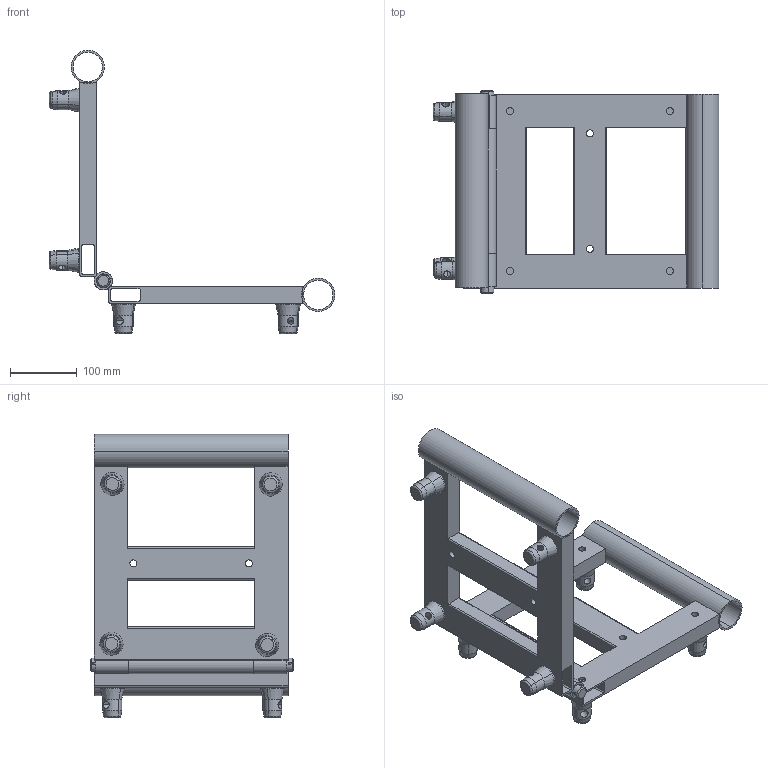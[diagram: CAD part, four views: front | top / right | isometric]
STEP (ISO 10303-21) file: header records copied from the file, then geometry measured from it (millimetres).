
FILE_DESCRIPTION (( 'STEP AP203' ), '1' );
FILE_NAME ('ANGV259.STEP', '2009-10-26T12:47:27', ( 'CEDIA' ), ( 'CEDIA INDUSTRIE' ), 'SwSTEP 2.0', 'SolidWorks 2009', '' );
FILE_SCHEMA (( 'CONFIG_CONTROL_DESIGN' ));
Length unit declared in the file: millimetre
Products named in the file (8): ANGV259-001_REPA; ANGV259-002_REPB; ANGV259; ANGV259-001; ANGV259-001_REPB; ANGV259-002; ANGV259-003; DEMImoyeu conique ASD
Assembly tree (16 placements, depth 3):
  ANGV259
    ANGV259-002
      ANGV259-001_REPA
      ANGV259-002_REPB  x2
    ANGV259-003
    ANGV259-001
      ANGV259-001_REPB
      ANGV259-001_REPA
    DEMImoyeu conique ASD  x8
Bounding box: 427.65 x 305 x 423.76 mm (x, y, z)
Volume: 2531668.8 mm3; surface area: 645037.4 mm2
Topology: 16 solids, 16 shells, 246 faces, 574 edges, 360 vertices
Faces by surface type: cylinder 114, plane 64, cone 52, torus 16
Entity records: 4257 total; most frequent: CARTESIAN_POINT 858, DIRECTION 534, ORIENTED_EDGE 444, EDGE_CURVE 222, AXIS2_PLACEMENT_3D 213, VERTEX_POINT 144, EDGE_LOOP 122, VECTOR 108
